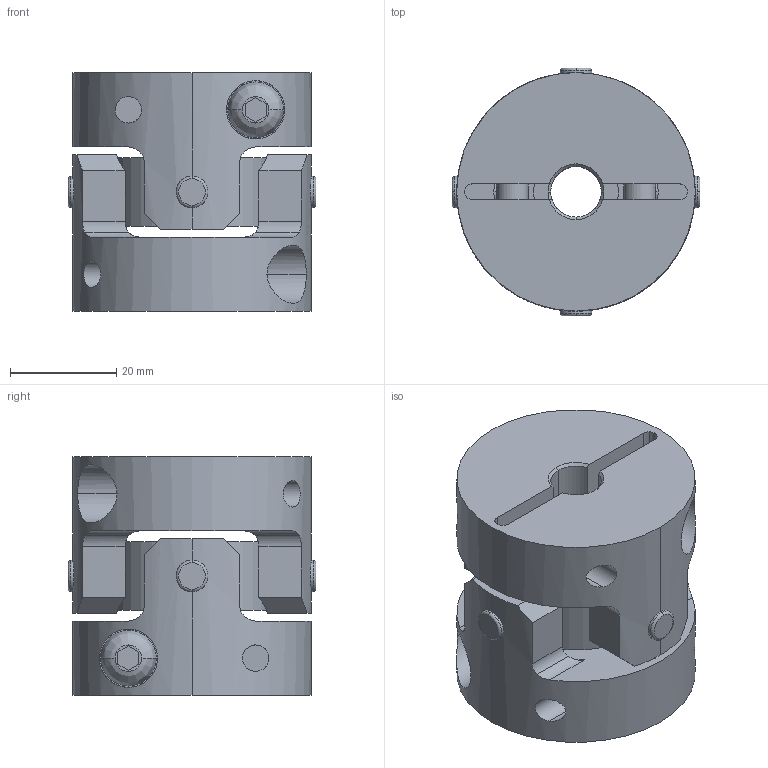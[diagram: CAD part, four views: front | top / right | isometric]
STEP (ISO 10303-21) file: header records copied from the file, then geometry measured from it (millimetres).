
FILE_DESCRIPTION((''),'2;1');
FILE_NAME('UA-45C-9.525×9.525.stp','2013-11-19T08:45:14',(''),(''),'AutoCAD STEP 2000i','AutoCAD 2000i',', , ');
FILE_SCHEMA(('CONFIG_CONTROL_DESIGN'));
Length unit declared in the file: millimetre
Products named in the file (6): UA-45C-8×8; 忣兜1; UA-4502-D08-1; BTN-M6; UA-4502-D08; UA45-SEN
Assembly tree (6 placements, depth 3):
  UA-45C-8×8
    忣兜1
    UA-4502-D08-1
      BTN-M6
    UA-4502-D08
      BTN-M6
    UA45-SEN
Bounding box: 46.73 x 46.73 x 45 mm (x, y, z)
Volume: 51236.9 mm3; surface area: 20336.6 mm2
Topology: 1 solids, 1 shells, 206 faces, 554 edges, 364 vertices
Faces by surface type: cylinder 96, plane 78, cone 16, bspline 8, torus 8
Entity records: 8523 total; most frequent: CARTESIAN_POINT 3207, ORIENTED_EDGE 1108, DIRECTION 1064, EDGE_CURVE 554, AXIS2_PLACEMENT_3D 409, VERTEX_POINT 364, VECTOR 246, LINE 246
